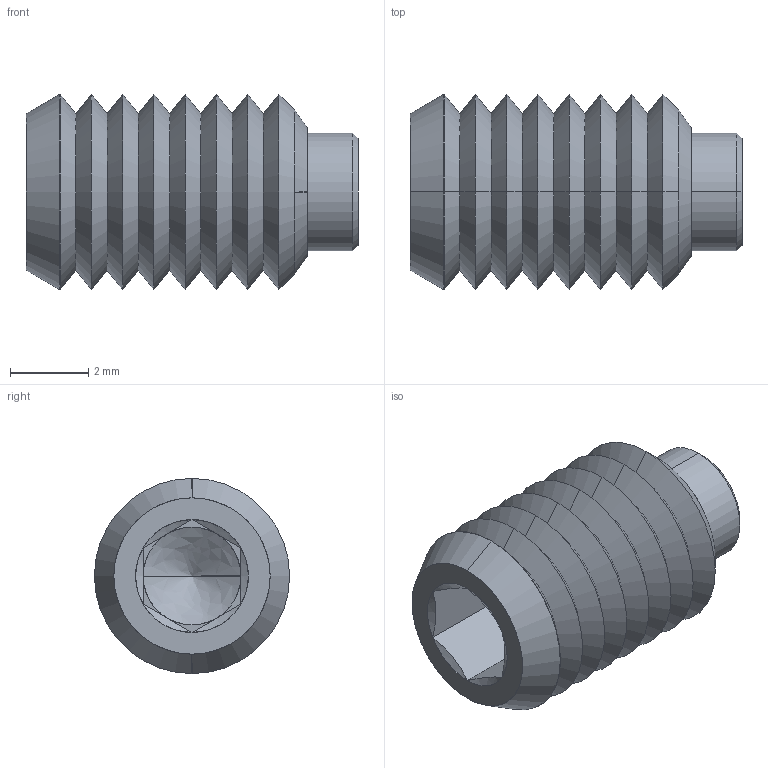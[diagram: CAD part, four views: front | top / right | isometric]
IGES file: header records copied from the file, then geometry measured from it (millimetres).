
Start section: SolidWorks IGES file using analytic representation for surfaces
Global section: file name: C:\Users\IanO\Desktop\P0120_v2_230406\P0120_v2_20230506_IGES\P0120.050-008.igs; native system: SolidWorks 2019; preprocessor: SolidWorks 2019; author: IanO; date: 230406.142250; units: millimetre
Bounding box: 8.5 x 5 x 5 mm (x, y, z)
Surface area: 248.9 mm2 (no closed solid volume)
Topology: 0 solids, 0 shells, 67 faces, 514 edges, 512 vertices
Faces by surface type: revolution 50, bspline 17
